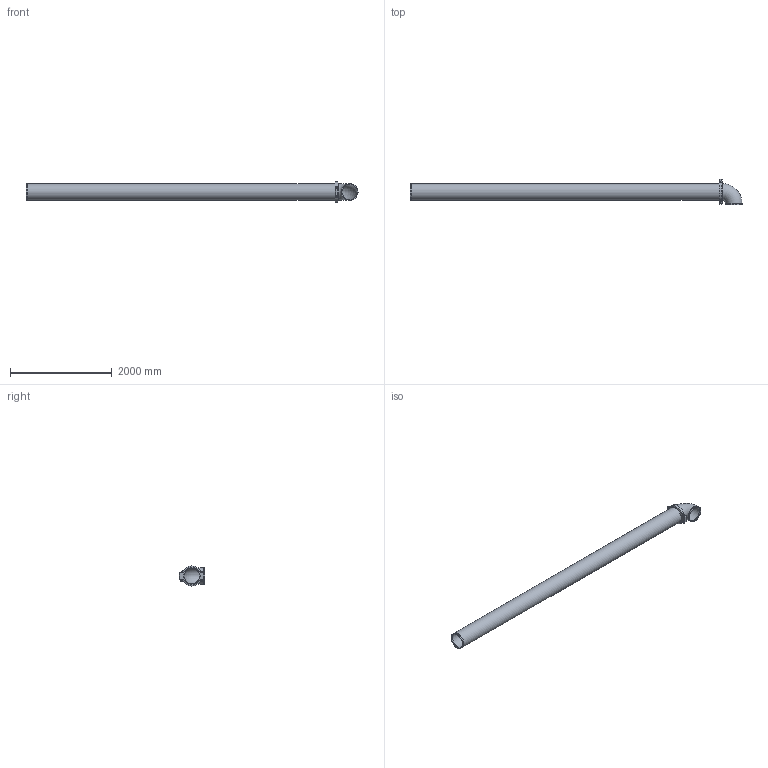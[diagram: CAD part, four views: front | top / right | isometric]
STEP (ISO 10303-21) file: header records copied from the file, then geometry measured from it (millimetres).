
FILE_DESCRIPTION(/* description */ ('VIC LONG RUN FITTING No R20 (OGS)','CAx-IF Rec.Pracs.---Representation and Presentation of Product Manufacturing Information (PMI)---4.0---2014-10-13'),/* implementation_level */ '2;1');
FILE_NAME(/* name */ 'C:\Users\Vjadhav\AppData\Roaming\Autodesk\ApplicationPlugins\Back Up\Victaulic_IPS_Long Run Fittings_No R20 (OGS)\Victaulic_IPS_Long Run Fittings_No R20 (OGS)_12 (300).stp',/* time_stamp */ '2020-10-06T19:46:12+05:00',/* author */ ('Vjadhav'),/* organization */ ('Victaulic'),/* preprocessor_version */ 'ST-DEVELOPER v17.2',/* originating_system */ 'Autodesk Inventor 2019',/* authorisation */ '');
FILE_SCHEMA (('AP242_MANAGED_MODEL_BASED_3D_ENGINEERING_MIM_LF { 1 0 10303 442 1 1 4 }'));
Length unit declared in the file: inch
Products named in the file (4): R20-12.0; 010-12.0; Pipe_R10-12.0; 077-12.0
Assembly tree (3 placements, depth 2):
  R20-12.0
    010-12.0
    Pipe_R10-12.0
    077-12.0
Bounding box: 6515.23 x 498.48 x 397 mm (x, y, z)
Volume: 64446302.4 mm3; surface area: 13225929 mm2
Topology: 3 solids, 5 shells, 87 faces, 205 edges, 144 vertices
Faces by surface type: plane 48, cylinder 31, cone 4, torus 2, bspline 2
Full cylindrical faces by diameter (mm): 25.4 x4, 27.432 x2, 304.8 x3, 314.96 x1, 318.287 x4, 323.85 x7
Entity records: 3255 total; most frequent: CARTESIAN_POINT 911, DIRECTION 457, ORIENTED_EDGE 410, EDGE_CURVE 205, AXIS2_PLACEMENT_3D 184, VERTEX_POINT 144, EDGE_LOOP 113, CIRCLE 92
